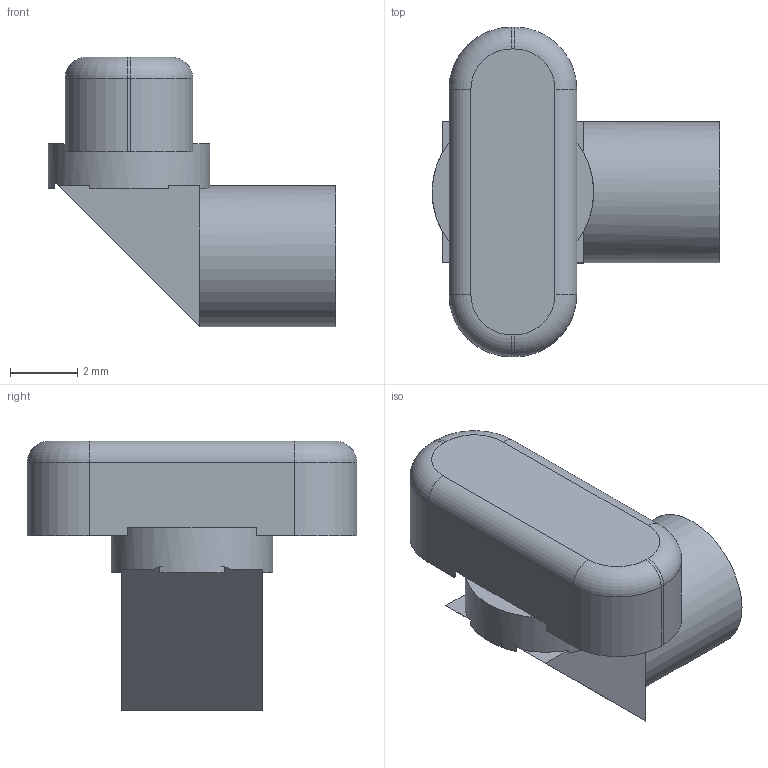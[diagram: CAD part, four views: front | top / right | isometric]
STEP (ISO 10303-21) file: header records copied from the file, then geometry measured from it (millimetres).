
FILE_DESCRIPTION(('Open CASCADE Model'),'2;1');
FILE_NAME('Open CASCADE Shape Model','2026-09-08T12:56:14',('Author'),( 'Open CASCADE'),'Open CASCADE STEP processor 7.7','Open CASCADE 7.7' ,'Unknown');
FILE_SCHEMA(('AUTOMOTIVE_DESIGN { 1 0 10303 214 1 1 1 1 }'));
Length unit declared in the file: millimetre
Products named in the file (1): Open CASCADE STEP translator 7.7 1
Bounding box: 8.55 x 9.8 x 8.02 mm (x, y, z)
Volume: 205.9 mm3; surface area: 251.4 mm2
Topology: 1 solids, 1 shells, 45 faces, 113 edges, 70 vertices
Faces by surface type: plane 29, cylinder 12, torus 4
Full cylindrical faces by diameter (mm): 4.2 x1, 4.8 x1
Entity records: 2861 total; most frequent: CARTESIAN_POINT 575, DIRECTION 440, LINE 235, VECTOR 235, ORIENTED_EDGE 226, PCURVE 226, DEFINITIONAL_REPRESENTATION 226, EDGE_CURVE 113
